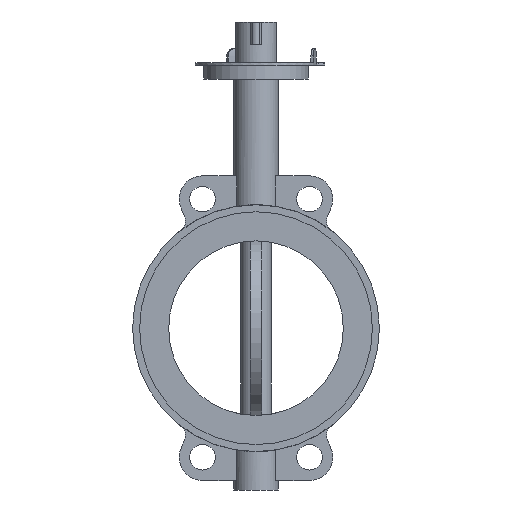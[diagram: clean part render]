
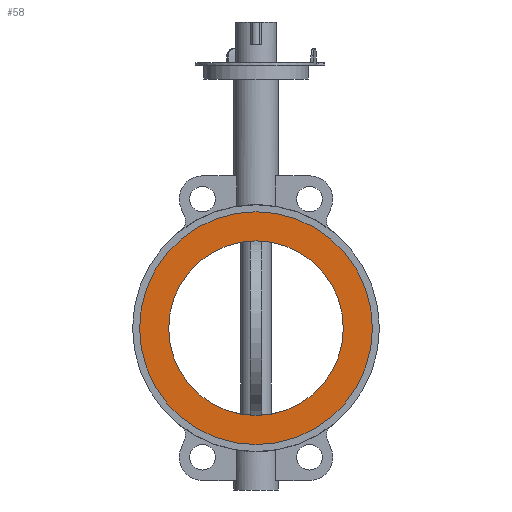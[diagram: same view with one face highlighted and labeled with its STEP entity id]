
A CAD part, left-side view. The second image highlights one B-rep face of the part: STEP entity #58.
In plain terms, the highlighted planar face has unit normal (-1, 0, 0).
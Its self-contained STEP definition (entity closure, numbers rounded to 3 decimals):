
#58=ADVANCED_FACE('',(#6763,#6765),#6767,.F.);
#6763=FACE_BOUND('',#6764,.T.);
#6764=EDGE_LOOP('',(#12110));
#6765=FACE_BOUND('',#6766,.T.);
#6766=EDGE_LOOP('',(#12111));
#6767=PLANE('',#6768);
#6768=AXIS2_PLACEMENT_3D('',#6769,#6770,#6771);
#6769=CARTESIAN_POINT('',(-28.,0.,0.));
#6770=DIRECTION('',(1.,0.,0.));
#6771=DIRECTION('',(0.,1.,0.));
#12110=ORIENTED_EDGE('',*,*,#16417,.T.);
#12111=ORIENTED_EDGE('',*,*,#16418,.T.);
#16417=EDGE_CURVE('',#18602,#18602,#18603,.F.);
#16418=EDGE_CURVE('',#18604,#18604,#18605,.T.);
#18602=VERTEX_POINT('',#22208);
#18603=CIRCLE('',#22209,100.);
#18604=VERTEX_POINT('',#22213);
#18605=CIRCLE('',#22214,75.);
#22208=CARTESIAN_POINT('',(-28.,100.,0.));
#22209=AXIS2_PLACEMENT_3D('',#22210,#22211,#22212);
#22210=CARTESIAN_POINT('',(-28.,0.,0.));
#22211=DIRECTION('',(1.,0.,0.));
#22212=DIRECTION('',(0.,1.,0.));
#22213=CARTESIAN_POINT('',(-28.,75.,0.));
#22214=AXIS2_PLACEMENT_3D('',#22215,#22216,#22217);
#22215=CARTESIAN_POINT('',(-28.,0.,0.));
#22216=DIRECTION('',(1.,0.,0.));
#22217=DIRECTION('',(0.,1.,0.));
